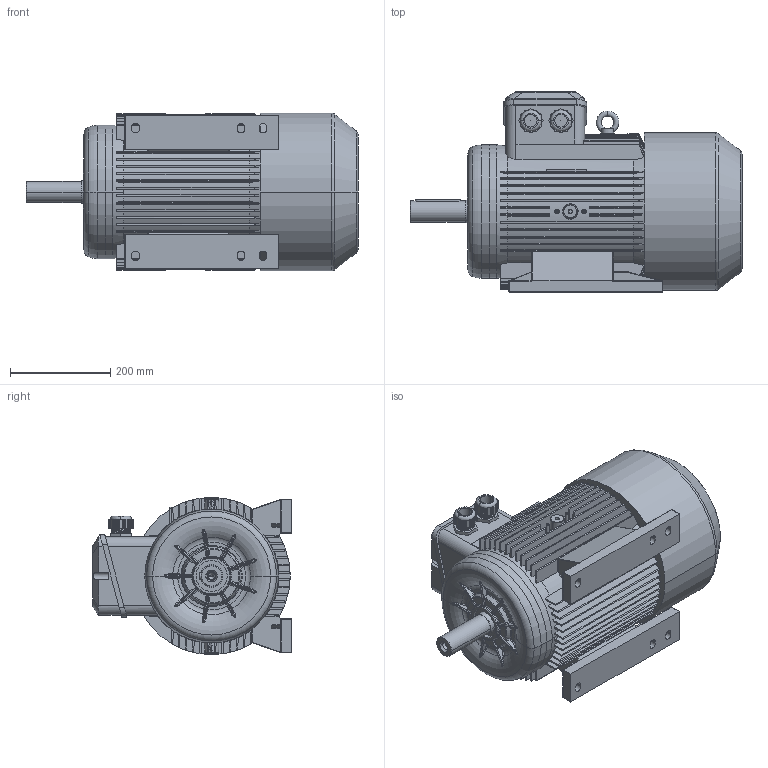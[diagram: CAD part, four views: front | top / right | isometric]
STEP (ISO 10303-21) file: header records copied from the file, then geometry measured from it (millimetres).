
FILE_DESCRIPTION (( 'STEP AP214' ), '1' );
FILE_NAME ('MAP160L4A IM1041.STEP', '2021-01-15T09:57:48', ( '' ), ( '' ), 'SwSTEP 2.0', 'SolidWorks 2018', '' );
FILE_SCHEMA (( 'AUTOMOTIVE_DESIGN' ));
Length unit declared in the file: millimetre
Products named in the file (1): MAP160L4A IM1041
Bounding box: 661 x 398 x 313.5 mm (x, y, z)
Volume: 38481992.7 mm3; surface area: 1498704.5 mm2
Topology: 1 solids, 8 shells, 1899 faces, 4995 edges, 3113 vertices
Faces by surface type: plane 1019, cylinder 376, bspline 218, cone 121, torus 85, sphere 80
Entity records: 79331 total; most frequent: CARTESIAN_POINT 34736, ORIENTED_EDGE 9890, DIRECTION 8513, EDGE_CURVE 4945, VERTEX_POINT 3113, LINE 2853, VECTOR 2853, AXIS2_PLACEMENT_3D 2830
